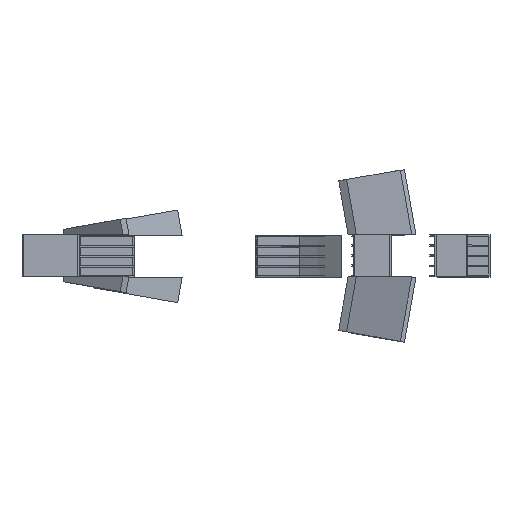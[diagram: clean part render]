
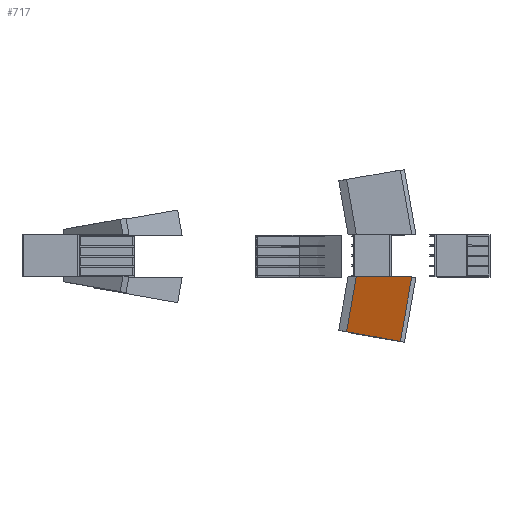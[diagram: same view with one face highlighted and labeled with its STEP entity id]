
A CAD part, top view. The second image highlights one B-rep face of the part: STEP entity #717.
In plain terms, the highlighted planar face has unit normal (0.869, -0.153, 0.471).
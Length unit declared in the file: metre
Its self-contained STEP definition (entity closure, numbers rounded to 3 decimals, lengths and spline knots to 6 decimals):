
#717 = ADVANCED_FACE('',(#718),#731,.T.);
#718 = FACE_BOUND('',#719,.F.);
#719 = EDGE_LOOP('',(#720,#752,#777,#802));
#720 = ORIENTED_EDGE('',*,*,#721,.F.);
#721 = EDGE_CURVE('',#722,#724,#726,.T.);
#722 = VERTEX_POINT('',#723);
#723 = CARTESIAN_POINT('',(14.153534,-0.67455,5.255428));
#724 = VERTEX_POINT('',#725);
#725 = CARTESIAN_POINT('',(13.842107,-2.440737,5.255428
    ));
#726 = SURFACE_CURVE('',#727,(#730,#741),.PCURVE_S1.);
#727 = B_SPLINE_CURVE_WITH_KNOTS('',1,(#728,#729),.UNSPECIFIED.,.F.,.F.,
  (2,2),(0.,1.924819),.PIECEWISE_BEZIER_KNOTS.);
#728 = CARTESIAN_POINT('',(14.153534,-0.67455,5.255428));
#729 = CARTESIAN_POINT('',(13.842107,-2.440737,5.255428
    ));
#730 = PCURVE('',#731,#736);
#731 = PLANE('',#732);
#732 = AXIS2_PLACEMENT_3D('',#733,#734,#735);
#733 = CARTESIAN_POINT('',(14.872879,-1.633611,3.618397
    ));
#734 = DIRECTION('',(0.869,-0.153,0.471));
#735 = DIRECTION('',(-0.473,0.025,0.88)
  );
#736 = DEFINITIONAL_REPRESENTATION('',(#737),#740);
#737 = B_SPLINE_CURVE_WITH_KNOTS('',1,(#738,#739),.UNSPECIFIED.,.F.,.F.,
  (2,2),(0.,1.924819),.PIECEWISE_BEZIER_KNOTS.);
#738 = CARTESIAN_POINT('',(1.806,-0.925));
#739 = CARTESIAN_POINT('',(1.909,0.866));
#740 = ( GEOMETRIC_REPRESENTATION_CONTEXT(2) 
PARAMETRIC_REPRESENTATION_CONTEXT() REPRESENTATION_CONTEXT('2D SPACE',''
  ) );
#741 = PCURVE('',#742,#747);
#742 = PLANE('',#743);
#743 = AXIS2_PLACEMENT_3D('',#744,#745,#746);
#744 = CARTESIAN_POINT('',(13.867973,-1.546371,
    5.183878));
#745 = DIRECTION('',(-0.475,0.084,0.876));
#746 = DIRECTION('',(-0.862,0.154,-0.483));
#747 = DEFINITIONAL_REPRESENTATION('',(#748),#751);
#748 = B_SPLINE_CURVE_WITH_KNOTS('',1,(#749,#750),.UNSPECIFIED.,.F.,.F.,
  (2,2),(0.,1.924819),.PIECEWISE_BEZIER_KNOTS.);
#749 = CARTESIAN_POINT('',(-0.146,-0.908));
#750 = CARTESIAN_POINT('',(-0.15,0.885));
#751 = ( GEOMETRIC_REPRESENTATION_CONTEXT(2) 
PARAMETRIC_REPRESENTATION_CONTEXT() REPRESENTATION_CONTEXT('2D SPACE',''
  ) );
#752 = ORIENTED_EDGE('',*,*,#753,.T.);
#753 = EDGE_CURVE('',#722,#754,#756,.T.);
#754 = VERTEX_POINT('',#755);
#755 = CARTESIAN_POINT('',(15.930441,-0.67455,1.981366));
#756 = SURFACE_CURVE('',#757,(#760,#766),.PCURVE_S1.);
#757 = B_SPLINE_CURVE_WITH_KNOTS('',1,(#758,#759),.UNSPECIFIED.,.F.,.F.,
  (2,2),(0.,1.),.PIECEWISE_BEZIER_KNOTS.);
#758 = CARTESIAN_POINT('',(14.153534,-0.67455,5.255428));
#759 = CARTESIAN_POINT('',(15.930441,-0.67455,1.981366));
#760 = PCURVE('',#731,#761);
#761 = DEFINITIONAL_REPRESENTATION('',(#762),#765);
#762 = B_SPLINE_CURVE_WITH_KNOTS('',1,(#763,#764),.UNSPECIFIED.,.F.,.F.,
  (2,2),(0.,1.),.PIECEWISE_BEZIER_KNOTS.);
#763 = CARTESIAN_POINT('',(1.806,-0.925));
#764 = CARTESIAN_POINT('',(-1.918,-1.02));
#765 = ( GEOMETRIC_REPRESENTATION_CONTEXT(2) 
PARAMETRIC_REPRESENTATION_CONTEXT() REPRESENTATION_CONTEXT('2D SPACE',''
  ) );
#766 = PCURVE('',#767,#772);
#767 = PLANE('',#768);
#768 = AXIS2_PLACEMENT_3D('',#769,#770,#771);
#769 = CARTESIAN_POINT('',(14.910152,-0.67455,3.546847));
#770 = DIRECTION('',(0.,-1.,-0.));
#771 = DIRECTION('',(-1.,0.,0.));
#772 = DEFINITIONAL_REPRESENTATION('',(#773),#776);
#773 = B_SPLINE_CURVE_WITH_KNOTS('',1,(#774,#775),.UNSPECIFIED.,.F.,.F.,
  (2,2),(0.,1.),.PIECEWISE_BEZIER_KNOTS.);
#774 = CARTESIAN_POINT('',(0.757,-1.709));
#775 = CARTESIAN_POINT('',(-1.02,1.565));
#776 = ( GEOMETRIC_REPRESENTATION_CONTEXT(2) 
PARAMETRIC_REPRESENTATION_CONTEXT() REPRESENTATION_CONTEXT('2D SPACE',''
  ) );
#777 = ORIENTED_EDGE('',*,*,#778,.T.);
#778 = EDGE_CURVE('',#754,#779,#781,.T.);
#779 = VERTEX_POINT('',#780);
#780 = CARTESIAN_POINT('',(15.565434,-2.744606,
    1.981366));
#781 = SURFACE_CURVE('',#782,(#785,#791),.PCURVE_S1.);
#782 = B_SPLINE_CURVE_WITH_KNOTS('',1,(#783,#784),.UNSPECIFIED.,.F.,.F.,
  (2,2),(0.,1.924819),.PIECEWISE_BEZIER_KNOTS.);
#783 = CARTESIAN_POINT('',(15.930441,-0.67455,1.981366));
#784 = CARTESIAN_POINT('',(15.565434,-2.744606,
    1.981366));
#785 = PCURVE('',#731,#786);
#786 = DEFINITIONAL_REPRESENTATION('',(#787),#790);
#787 = B_SPLINE_CURVE_WITH_KNOTS('',1,(#788,#789),.UNSPECIFIED.,.F.,.F.,
  (2,2),(0.,1.924819),.PIECEWISE_BEZIER_KNOTS.);
#788 = CARTESIAN_POINT('',(-1.918,-1.02));
#789 = CARTESIAN_POINT('',(-1.797,1.079));
#790 = ( GEOMETRIC_REPRESENTATION_CONTEXT(2) 
PARAMETRIC_REPRESENTATION_CONTEXT() REPRESENTATION_CONTEXT('2D SPACE',''
  ) );
#791 = PCURVE('',#792,#797);
#792 = PLANE('',#793);
#793 = AXIS2_PLACEMENT_3D('',#794,#795,#796);
#794 = CARTESIAN_POINT('',(15.61809,-1.698305,
    1.909816));
#795 = DIRECTION('',(0.475,-0.084,-0.876));
#796 = DIRECTION('',(0.862,-0.154,0.483));
#797 = DEFINITIONAL_REPRESENTATION('',(#798),#801);
#798 = B_SPLINE_CURVE_WITH_KNOTS('',1,(#799,#800),.UNSPECIFIED.,.F.,.F.,
  (2,2),(0.,1.924819),.PIECEWISE_BEZIER_KNOTS.);
#799 = CARTESIAN_POINT('',(0.147,-1.063));
#800 = CARTESIAN_POINT('',(0.15,1.039));
#801 = ( GEOMETRIC_REPRESENTATION_CONTEXT(2) 
PARAMETRIC_REPRESENTATION_CONTEXT() REPRESENTATION_CONTEXT('2D SPACE',''
  ) );
#802 = ORIENTED_EDGE('',*,*,#803,.F.);
#803 = EDGE_CURVE('',#724,#779,#804,.T.);
#804 = SURFACE_CURVE('',#805,(#808,#814),.PCURVE_S1.);
#805 = B_SPLINE_CURVE_WITH_KNOTS('',1,(#806,#807),.UNSPECIFIED.,.F.,.F.,
  (2,2),(0.,1.),.PIECEWISE_BEZIER_KNOTS.);
#806 = CARTESIAN_POINT('',(13.842107,-2.440737,5.255428
    ));
#807 = CARTESIAN_POINT('',(15.565434,-2.744606,
    1.981366));
#808 = PCURVE('',#731,#809);
#809 = DEFINITIONAL_REPRESENTATION('',(#810),#813);
#810 = B_SPLINE_CURVE_WITH_KNOTS('',1,(#811,#812),.UNSPECIFIED.,.F.,.F.,
  (2,2),(0.,1.),.PIECEWISE_BEZIER_KNOTS.);
#811 = CARTESIAN_POINT('',(1.909,0.866));
#812 = CARTESIAN_POINT('',(-1.797,1.079));
#813 = ( GEOMETRIC_REPRESENTATION_CONTEXT(2) 
PARAMETRIC_REPRESENTATION_CONTEXT() REPRESENTATION_CONTEXT('2D SPACE',''
  ) );
#814 = PCURVE('',#815,#820);
#815 = PLANE('',#816);
#816 = AXIS2_PLACEMENT_3D('',#817,#818,#819);
#817 = CARTESIAN_POINT('',(14.575911,-2.570126,
    3.546847));
#818 = DIRECTION('',(-0.174,-0.985,0.
    ));
#819 = DIRECTION('',(-0.985,0.174,0.)
  );
#820 = DEFINITIONAL_REPRESENTATION('',(#821),#824);
#821 = B_SPLINE_CURVE_WITH_KNOTS('',1,(#822,#823),.UNSPECIFIED.,.F.,.F.,
  (2,2),(0.,1.),.PIECEWISE_BEZIER_KNOTS.);
#822 = CARTESIAN_POINT('',(0.745,-1.709));
#823 = CARTESIAN_POINT('',(-1.005,1.565));
#824 = ( GEOMETRIC_REPRESENTATION_CONTEXT(2) 
PARAMETRIC_REPRESENTATION_CONTEXT() REPRESENTATION_CONTEXT('2D SPACE',''
  ) );
